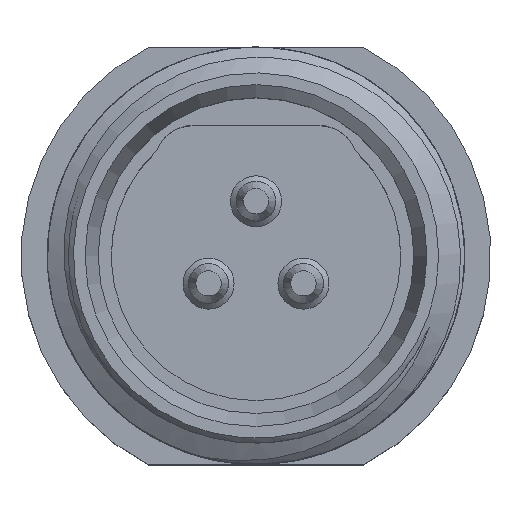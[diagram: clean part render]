
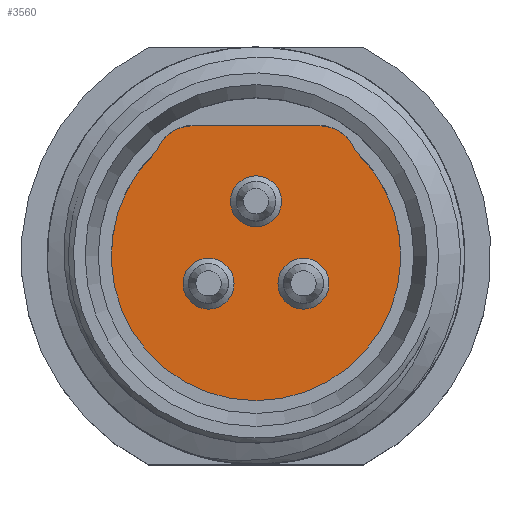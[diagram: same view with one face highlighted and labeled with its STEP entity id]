
A CAD part, top view. The second image highlights one B-rep face of the part: STEP entity #3560.
In plain terms, the highlighted planar face has unit normal (0, 0, 1).
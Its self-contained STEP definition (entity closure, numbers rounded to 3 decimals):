
#136 = CIRCLE ( 'NONE', #1687, 0.978 ) ;
#162 = CARTESIAN_POINT ( 'NONE',  ( 2.409, 3.5, 0. ) ) ;
#191 = CARTESIAN_POINT ( 'NONE',  ( 2.409, 5., 0. ) ) ;
#198 = DIRECTION ( 'NONE',  ( -1., 0., 0. ) ) ;
#242 = CARTESIAN_POINT ( 'NONE',  ( -2.409, 5., 0. ) ) ;
#387 = EDGE_LOOP ( 'NONE', ( #2787, #1665, #4074, #3851 ) ) ;
#509 = CARTESIAN_POINT ( 'NONE',  ( 3.81, 4.036, 0. ) ) ;
#841 = DIRECTION ( 'NONE',  ( 0., 0., 1. ) ) ;
#845 = CARTESIAN_POINT ( 'NONE',  ( 0., 2.1, 0. ) ) ;
#981 = VERTEX_POINT ( 'NONE', #4048 ) ;
#1033 = CIRCLE ( 'NONE', #1764, 1.5 ) ;
#1049 = FACE_BOUND ( 'NONE', #1348, .T. ) ;
#1055 = EDGE_CURVE ( 'NONE', #1550, #5431, #1841, .T. ) ;
#1075 = CARTESIAN_POINT ( 'NONE',  ( 0., 5., 0. ) ) ;
#1311 = AXIS2_PLACEMENT_3D ( 'NONE', #3629, #4530, #2820 ) ;
#1348 = EDGE_LOOP ( 'NONE', ( #5318 ) ) ;
#1438 = VERTEX_POINT ( 'NONE', #5345 ) ;
#1465 = VERTEX_POINT ( 'NONE', #3117 ) ;
#1550 = VERTEX_POINT ( 'NONE', #509 ) ;
#1632 = CARTESIAN_POINT ( 'NONE',  ( -2.409, 3.5, 0. ) ) ;
#1665 = ORIENTED_EDGE ( 'NONE', *, *, #2503, .T. ) ;
#1687 = AXIS2_PLACEMENT_3D ( 'NONE', #4700, #841, #3022 ) ;
#1752 = CARTESIAN_POINT ( 'NONE',  ( -2.797, -1.05, 0. ) ) ;
#1764 = AXIS2_PLACEMENT_3D ( 'NONE', #1632, #4574, #3319 ) ;
#1841 = CIRCLE ( 'NONE', #4984, 1.5 ) ;
#1942 = CIRCLE ( 'NONE', #1311, 0.978 ) ;
#1951 = VECTOR ( 'NONE', #3686, 1000. ) ;
#1993 = EDGE_CURVE ( 'NONE', #981, #981, #1942, .T. ) ;
#2080 = LINE ( 'NONE', #242, #1951 ) ;
#2297 = CIRCLE ( 'NONE', #5174, 0.978 ) ;
#2389 = EDGE_LOOP ( 'NONE', ( #5572 ) ) ;
#2503 = EDGE_CURVE ( 'NONE', #3743, #1465, #1033, .T. ) ;
#2583 = CIRCLE ( 'NONE', #4104, 5.55 ) ;
#2636 = EDGE_CURVE ( 'NONE', #1438, #1438, #2297, .T. ) ;
#2774 = FACE_BOUND ( 'NONE', #2389, .T. ) ;
#2786 = CARTESIAN_POINT ( 'NONE',  ( -2.409, 5., 0. ) ) ;
#2787 = ORIENTED_EDGE ( 'NONE', *, *, #4083, .T. ) ;
#2820 = DIRECTION ( 'NONE',  ( -1., 0., 0. ) ) ;
#2831 = DIRECTION ( 'NONE',  ( 0., 0., -1. ) ) ;
#2921 = DIRECTION ( 'NONE',  ( 0., 0., 1. ) ) ;
#2942 = AXIS2_PLACEMENT_3D ( 'NONE', #1075, #2831, #198 ) ;
#3022 = DIRECTION ( 'NONE',  ( -1., 0., 0. ) ) ;
#3117 = CARTESIAN_POINT ( 'NONE',  ( -3.81, 4.036, 0. ) ) ;
#3289 = DIRECTION ( 'NONE',  ( -1., 0., 0. ) ) ;
#3319 = DIRECTION ( 'NONE',  ( 1., 0., 0. ) ) ;
#3560 = ADVANCED_FACE ( 'NONE', ( #5416, #2774, #1049, #3614 ), #4568, .F. ) ;
#3606 = DIRECTION ( 'NONE',  ( 0., 0., 1. ) ) ;
#3614 = FACE_OUTER_BOUND ( 'NONE', #387, .T. ) ;
#3629 = CARTESIAN_POINT ( 'NONE',  ( 1.819, -1.05, 0. ) ) ;
#3686 = DIRECTION ( 'NONE',  ( -1., 0., 0. ) ) ;
#3743 = VERTEX_POINT ( 'NONE', #2786 ) ;
#3832 = DIRECTION ( 'NONE',  ( 0., 0., 1. ) ) ;
#3851 = ORIENTED_EDGE ( 'NONE', *, *, #1055, .T. ) ;
#4048 = CARTESIAN_POINT ( 'NONE',  ( 0.841, -1.05, 0. ) ) ;
#4074 = ORIENTED_EDGE ( 'NONE', *, *, #4797, .T. ) ;
#4083 = EDGE_CURVE ( 'NONE', #5431, #3743, #2080, .T. ) ;
#4104 = AXIS2_PLACEMENT_3D ( 'NONE', #4255, #3832, #5124 ) ;
#4219 = EDGE_LOOP ( 'NONE', ( #4920 ) ) ;
#4255 = CARTESIAN_POINT ( 'NONE',  ( 0., 0., 0. ) ) ;
#4312 = VERTEX_POINT ( 'NONE', #1752 ) ;
#4530 = DIRECTION ( 'NONE',  ( 0., 0., 1. ) ) ;
#4568 = PLANE ( 'NONE',  #2942 ) ;
#4574 = DIRECTION ( 'NONE',  ( 0., 0., 1. ) ) ;
#4700 = CARTESIAN_POINT ( 'NONE',  ( -1.819, -1.05, 0. ) ) ;
#4797 = EDGE_CURVE ( 'NONE', #1465, #1550, #2583, .T. ) ;
#4808 = EDGE_CURVE ( 'NONE', #4312, #4312, #136, .T. ) ;
#4870 = DIRECTION ( 'NONE',  ( 1., 0., 0. ) ) ;
#4920 = ORIENTED_EDGE ( 'NONE', *, *, #1993, .F. ) ;
#4984 = AXIS2_PLACEMENT_3D ( 'NONE', #162, #3606, #4870 ) ;
#5124 = DIRECTION ( 'NONE',  ( 1., 0., 0. ) ) ;
#5174 = AXIS2_PLACEMENT_3D ( 'NONE', #845, #2921, #3289 ) ;
#5318 = ORIENTED_EDGE ( 'NONE', *, *, #2636, .F. ) ;
#5345 = CARTESIAN_POINT ( 'NONE',  ( -0.978, 2.1, 0. ) ) ;
#5416 = FACE_BOUND ( 'NONE', #4219, .T. ) ;
#5431 = VERTEX_POINT ( 'NONE', #191 ) ;
#5572 = ORIENTED_EDGE ( 'NONE', *, *, #4808, .F. ) ;
